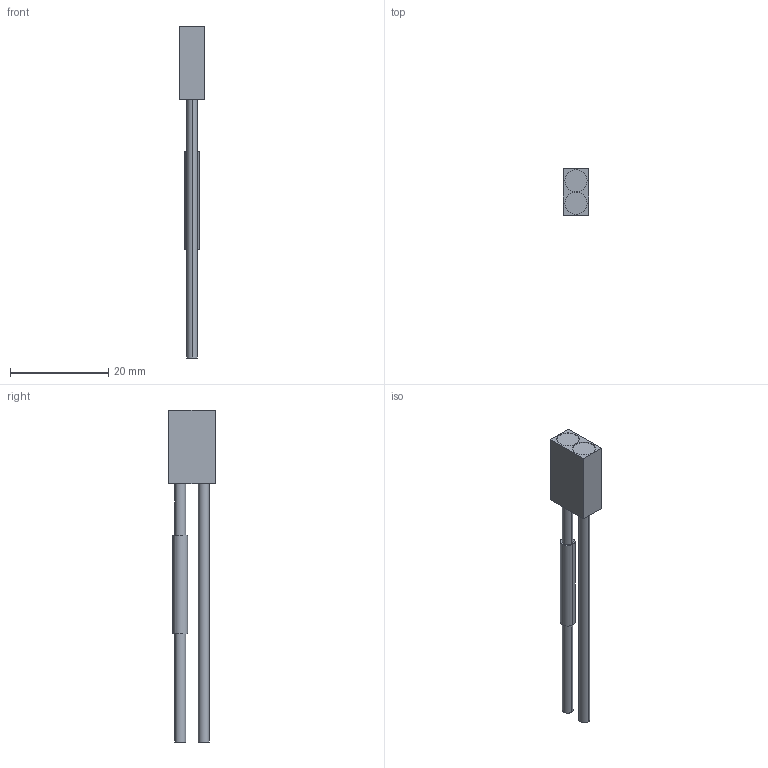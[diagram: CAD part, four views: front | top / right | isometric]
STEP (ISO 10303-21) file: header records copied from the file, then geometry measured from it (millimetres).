
FILE_DESCRIPTION (( 'STEP AP203' ), '1' );
FILE_NAME ('FD-WKZ1.STEP', '2005-09-04T10:26:39', ( '川島良英' ), ( ' ' ), 'SwSTEP 2.0', 'SolidWorks 2004251', '' );
FILE_SCHEMA (( 'CONFIG_CONTROL_DESIGN' ));
Length unit declared in the file: millimetre
Products named in the file (1): FD-WKZ1
Bounding box: 5.2 x 9.5 x 67.5 mm (x, y, z)
Volume: 1202.3 mm3; surface area: 1325.1 mm2
Topology: 1 solids, 1 shells, 24 faces, 48 edges, 32 vertices
Faces by surface type: cylinder 12, plane 12
Entity records: 713 total; most frequent: DIRECTION 122, CARTESIAN_POINT 105, ORIENTED_EDGE 96, AXIS2_PLACEMENT_3D 49, EDGE_CURVE 48, VERTEX_POINT 32, EDGE_LOOP 30, ADVANCED_FACE 24
